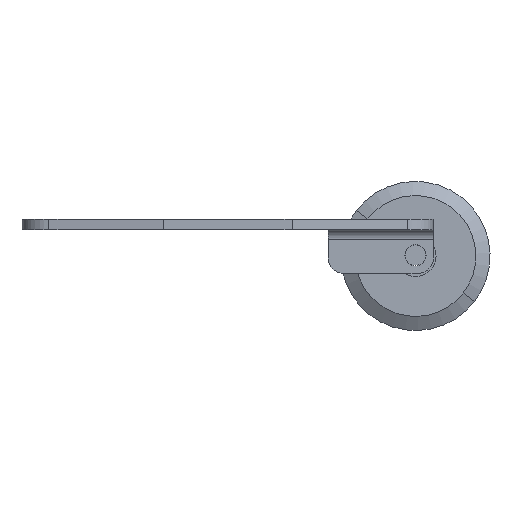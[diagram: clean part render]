
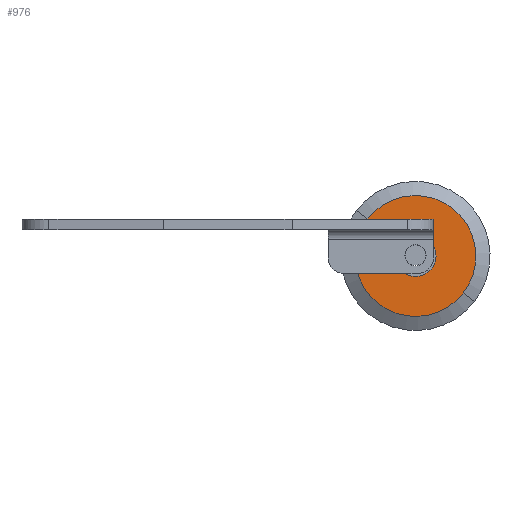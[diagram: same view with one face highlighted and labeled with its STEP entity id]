
A CAD part, left-side view. The second image highlights one B-rep face of the part: STEP entity #976.
In plain terms, the highlighted planar face has unit normal (-1, 0, 0).
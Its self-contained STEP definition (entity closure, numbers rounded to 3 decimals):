
#45 = DIRECTION ( 'NONE',  ( 0., 1., 0. ) ) ;
#91 = CARTESIAN_POINT ( 'NONE',  ( -14.362, 21.435, 14.378 ) ) ;
#95 = CARTESIAN_POINT ( 'NONE',  ( -14.362, 12.141, 7.189 ) ) ;
#130 = CIRCLE ( 'NONE', #1790, 23.5 ) ;
#304 = EDGE_LOOP ( 'NONE', ( #860, #2224 ) ) ;
#327 = CARTESIAN_POINT ( 'NONE',  ( -14.362, 2.847, 0. ) ) ;
#428 = AXIS2_PLACEMENT_3D ( 'NONE', #1512, #1480, #45 ) ;
#458 = EDGE_CURVE ( 'NONE', #2283, #1210, #130, .T. ) ;
#479 = DIRECTION ( 'NONE',  ( 0., 1., 0. ) ) ;
#516 = VERTEX_POINT ( 'NONE', #2157 ) ;
#520 = EDGE_CURVE ( 'NONE', #516, #1238, #724, .T. ) ;
#621 = FACE_BOUND ( 'NONE', #1178, .T. ) ;
#622 = AXIS2_PLACEMENT_3D ( 'NONE', #1588, #1814, #750 ) ;
#641 = CARTESIAN_POINT ( 'NONE',  ( -14.362, 5.294, -3.164 ) ) ;
#724 = CIRCLE ( 'NONE', #1486, 4. ) ;
#750 = DIRECTION ( 'NONE',  ( 0., 1., 0. ) ) ;
#825 = PLANE ( 'NONE',  #919 ) ;
#860 = ORIENTED_EDGE ( 'NONE', *, *, #2090, .T. ) ;
#877 = ORIENTED_EDGE ( 'NONE', *, *, #1334, .T. ) ;
#886 = DIRECTION ( 'NONE',  ( 1., 0., 0. ) ) ;
#919 = AXIS2_PLACEMENT_3D ( 'NONE', #95, #2089, #964 ) ;
#964 = DIRECTION ( 'NONE',  ( 0., 0., 1. ) ) ;
#976 = ADVANCED_FACE ( 'NONE', ( #621, #1147 ), #825, .T. ) ;
#1147 = FACE_OUTER_BOUND ( 'NONE', #304, .T. ) ;
#1178 = EDGE_LOOP ( 'NONE', ( #1227, #877 ) ) ;
#1210 = VERTEX_POINT ( 'NONE', #91 ) ;
#1227 = ORIENTED_EDGE ( 'NONE', *, *, #520, .T. ) ;
#1229 = DIRECTION ( 'NONE',  ( 0., 1., 0. ) ) ;
#1238 = VERTEX_POINT ( 'NONE', #641 ) ;
#1334 = EDGE_CURVE ( 'NONE', #1238, #516, #2180, .T. ) ;
#1480 = DIRECTION ( 'NONE',  ( 1., 0., 0. ) ) ;
#1486 = AXIS2_PLACEMENT_3D ( 'NONE', #327, #886, #479 ) ;
#1512 = CARTESIAN_POINT ( 'NONE',  ( -14.362, 2.847, 0. ) ) ;
#1588 = CARTESIAN_POINT ( 'NONE',  ( -14.362, 2.847, 0. ) ) ;
#1600 = CARTESIAN_POINT ( 'NONE',  ( -14.362, 2.847, 0. ) ) ;
#1644 = CIRCLE ( 'NONE', #622, 23.5 ) ;
#1731 = CARTESIAN_POINT ( 'NONE',  ( -14.362, -15.741, -14.378 ) ) ;
#1790 = AXIS2_PLACEMENT_3D ( 'NONE', #1600, #1939, #1229 ) ;
#1814 = DIRECTION ( 'NONE',  ( -1., 0., 0. ) ) ;
#1939 = DIRECTION ( 'NONE',  ( -1., 0., 0. ) ) ;
#2089 = DIRECTION ( 'NONE',  ( -1., 0., 0. ) ) ;
#2090 = EDGE_CURVE ( 'NONE', #1210, #2283, #1644, .T. ) ;
#2157 = CARTESIAN_POINT ( 'NONE',  ( -14.362, 0.399, 3.164 ) ) ;
#2180 = CIRCLE ( 'NONE', #428, 4. ) ;
#2224 = ORIENTED_EDGE ( 'NONE', *, *, #458, .T. ) ;
#2283 = VERTEX_POINT ( 'NONE', #1731 ) ;
